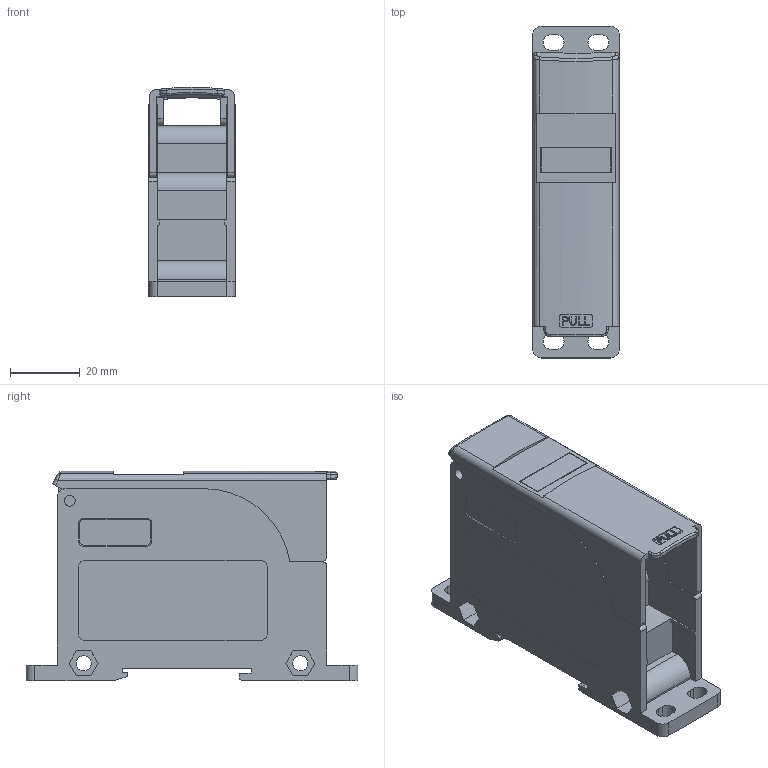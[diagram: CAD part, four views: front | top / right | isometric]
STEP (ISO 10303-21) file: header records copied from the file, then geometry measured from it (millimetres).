
FILE_DESCRIPTION(/* description */ (''),/* implementation_level */ '2;1');
FILE_NAME(/* name */ '',/* time_stamp */ '2016-09-21T12:08:47+09:00',/* author */ (''),/* organization */ (''),/* preprocessor_version */ 'ST-DEVELOPER v11',/* originating_system */ 'SIEMENS UGS NX 6.0',/* authorisation */ '');
FILE_SCHEMA (('CONFIG_CONTROL_DESIGN'));
Length unit declared in the file: millimetre
Products named in the file (1): ksleA0B3tu6e
Bounding box: 24.8 x 95 x 59.99 mm (x, y, z)
Volume: 66651.2 mm3; surface area: 25335.8 mm2
Topology: 1 solids, 1 shells, 257 faces, 722 edges, 481 vertices
Faces by surface type: plane 179, cylinder 58, bspline 8, extrusion 6, cone 4, torus 2
Full cylindrical faces by diameter (mm): 3.1 x2, 4.3 x2
Entity records: 9164 total; most frequent: CARTESIAN_POINT 2306, ORIENTED_EDGE 1454, DIRECTION 1332, EDGE_CURVE 727, VECTOR 544, LINE 538, VERTEX_POINT 493, AXIS2_PLACEMENT_3D 394
